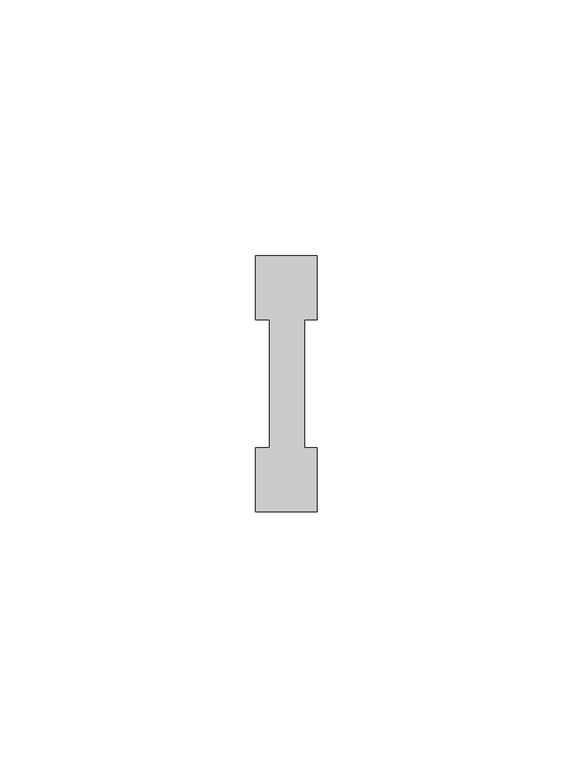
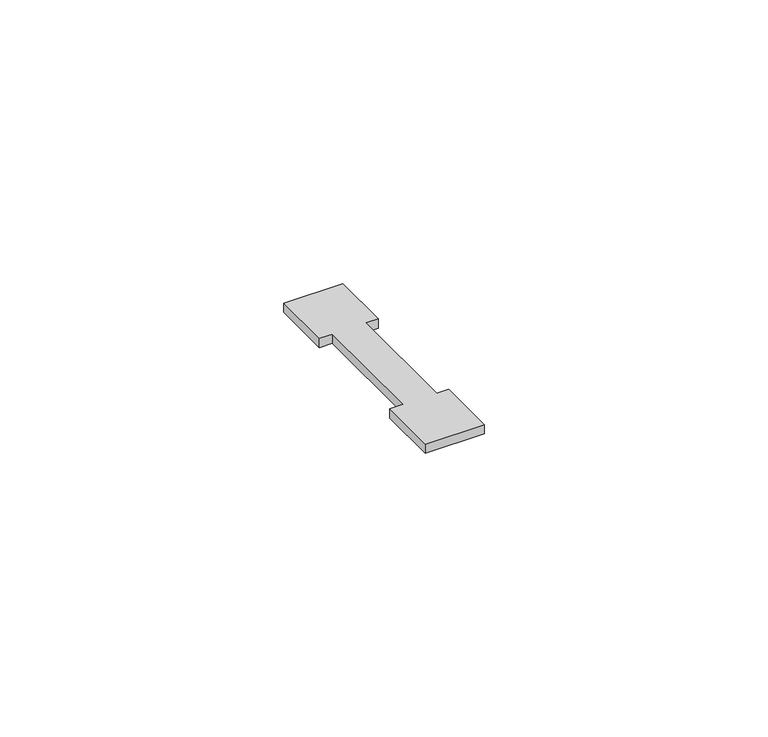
"""IFC4 building model written with IfcOpenShell, lengths in millimetres: duct fitting geometry, Скоба - для кабель-каналов DLP 35-50X80, 50х105-150, 65х150-220 : Скоба - для кабель-каналов DLP 35-50X80, 50х105-150, 65х150-220."""

from ifc_helpers import new_model, si_unit, origin, origin_with_axes, place, context, project, spatial, polyline, outline, extrude, source, transform, mapped, element, save


def duct_fitting_5a84a718(model_context):
    return source(origin(), model_context, "Body", "SweptSolid", [
        extrude(outline(polyline([(-6.0, 12.5), (-6.0, 25.0), (6.0, 25.0), (6.0, 12.5), (3.4820113, 12.5), (3.4820113, -12.5), (6.0, -12.5), (6.0, -25.0), (-6.0, -25.0), (-6.0, -12.5), (-3.3298276, -12.5), (-3.3298276, 12.5), (-6.0, 12.5)])), origin_with_axes(), (0.0, 0.0, 1.0), 2.0),
    ])


if __name__ == "__main__":
    model = new_model("IFC4")
    model_context = context("Model", 3, world=origin())
    ifc_project = project(units=[si_unit("LENGTHUNIT", "METRE", prefix="MILLI")], contexts=[model_context])
    site = spatial("IfcSite", under=ifc_project)
    building = spatial("IfcBuilding", under=site)
    placement = place(None, origin())
    duct_fitting_shape = duct_fitting_5a84a718(model_context)
    element("IfcDuctFitting", 1, ObjectType="Скоба - для кабель-каналов DLP 35-50X80, 50х105-150, 65х150-220 : Скоба - для кабель-каналов DLP 35-50X80, 50х105-150, 65х150-220", at=placement, inside=building, context=model_context, shape_type="MappedRepresentation", body=[
        mapped(duct_fitting_shape, transform((0.0, 0.0, 0.0), x_axis=(1.0, 0.0, 0.0), y_axis=(0.0, 1.0, 0.0), z_axis=(0.0, 0.0, 1.0))),
    ])
    save(model, "model.ifc")
